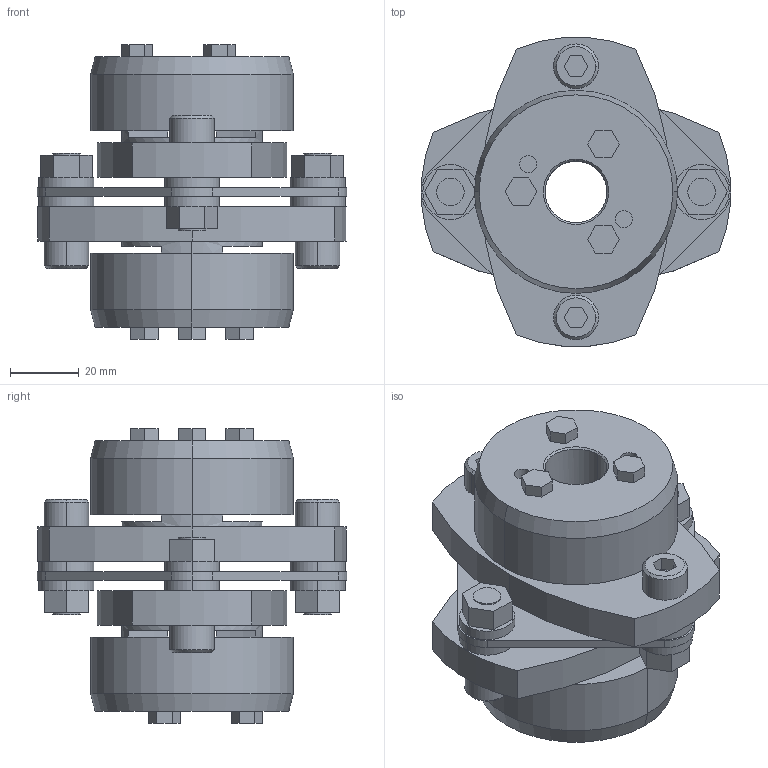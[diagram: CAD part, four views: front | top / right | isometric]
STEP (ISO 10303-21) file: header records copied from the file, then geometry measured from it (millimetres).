
FILE_DESCRIPTION((''),'2;1');
FILE_NAME('LCS-90T7-18×18.stp','2015-11-01T20:08:06',(''),(''),'AutoCAD STEP 2000i','AutoCAD 2000i',', , ');
FILE_SCHEMA(('CONFIG_CONTROL_DESIGN'));
Length unit declared in the file: millimetre
Products named in the file (7): LCS-90T7-19×19; 忣兜1; LC90T7-T019-1; LC90T7-T019; LC90-B019-1; LC90-B019; LCS90-ITA
Assembly tree (6 placements, depth 2):
  LCS-90T7-19×19
    忣兜1
    LC90T7-T019-1
    LC90T7-T019
    LC90-B019-1
    LC90-B019
    LCS90-ITA
Bounding box: 90 x 89.94 x 85.5 mm (x, y, z)
Volume: 210566.6 mm3; surface area: 52508.9 mm2
Topology: 1 solids, 1 shells, 232 faces, 568 edges, 372 vertices
Faces by surface type: plane 132, cylinder 80, cone 20
Entity records: 7063 total; most frequent: DIRECTION 1242, CARTESIAN_POINT 1179, ORIENTED_EDGE 1136, EDGE_CURVE 568, AXIS2_PLACEMENT_3D 435, VERTEX_POINT 372, VECTOR 372, LINE 372
